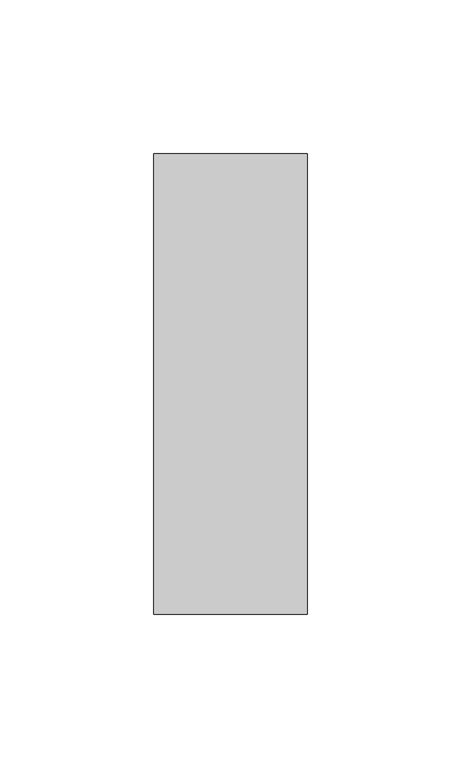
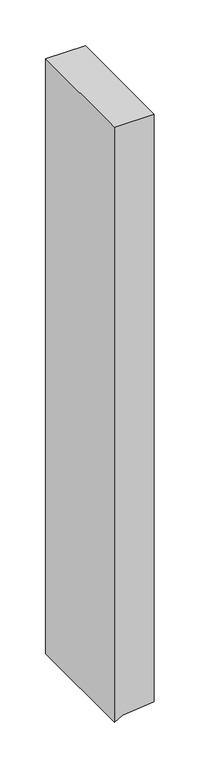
"""IFC4 building model written with IfcOpenShell, lengths in millimetres: member geometry, Прямоугольный импост : 50 x 150 мм."""

from ifc_helpers import new_model, si_unit, frame, origin, place, context, project, spatial, polyline, outline, extrude, source, transform, mapped, element, save


def member_d00fd185(model_context):
    return source(origin(), model_context, "Body", "SweptSolid", [
        extrude(outline(polyline([(0.0, 25.0), (0.0, -25.0), (-792.0847144, -25.0), (-786.7186383, -14.6045611), (-782.510623, 25.0), (0.0, 25.0)])), frame((0.0, -75.0, 0.0), z_axis=(0.0, 1.0, 0.0), x_axis=(0.0, 0.0, 1.0)), (0.0, 0.0, 1.0), 150.0),
    ])


if __name__ == "__main__":
    model = new_model("IFC4")
    model_context = context("Model", 3, world=origin())
    ifc_project = project(units=[si_unit("LENGTHUNIT", "METRE", prefix="MILLI")], contexts=[model_context])
    site = spatial("IfcSite", under=ifc_project)
    building = spatial("IfcBuilding", under=site)
    placement = place(None, origin())
    member_shape = member_d00fd185(model_context)
    element("IfcMember", 1, ObjectType="Прямоугольный импост : 50 x 150 мм", at=placement, inside=building, context=model_context, shape_type="MappedRepresentation", body=[
        mapped(member_shape, transform((0.0, 0.0, 0.0), x_axis=(1.0, 0.0, 0.0), y_axis=(0.0, 1.0, 0.0), z_axis=(0.0, 0.0, 1.0))),
    ])
    save(model, "model.ifc")
